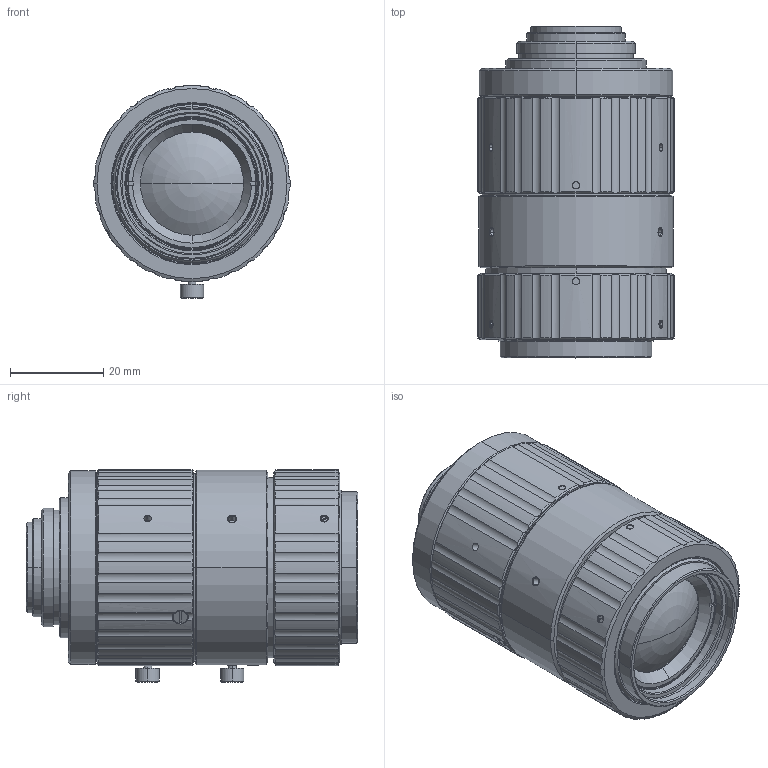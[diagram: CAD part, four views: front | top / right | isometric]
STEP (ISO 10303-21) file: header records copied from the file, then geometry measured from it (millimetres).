
FILE_DESCRIPTION (( 'STEP AP214' ), '1' );
FILE_NAME ('3D-drawing of V5024-MPZ_20190820.STEP', '2019-08-20T10:10:26', ( '' ), ( '' ), 'SwSTEP 2.0', 'SolidWorks 2013', '' );
FILE_SCHEMA (( 'AUTOMOTIVE_DESIGN' ));
Length unit declared in the file: millimetre
Products named in the file (3): V5024-MPZ_Mechnical limit_20190820; V5024-MPZ_Infinity_20190820; 3D-drawing of V5024-MPZ_20190820
Assembly tree (2 placements, depth 2):
  3D-drawing of V5024-MPZ_20190820
    V5024-MPZ_Infinity_20190820
    V5024-MPZ_Mechnical limit_20190820
Bounding box: 42 x 71.04 x 45.6 mm (x, y, z)
Surface area: 28689.5 mm2
Topology: 2 solids, 9 shells, 904 faces, 2288 edges, 1485 vertices
Faces by surface type: cylinder 449, plane 289, cone 150, torus 12, sphere 4
Entity records: 32857 total; most frequent: CARTESIAN_POINT 8112, ORIENTED_EDGE 4568, DIRECTION 4529, EDGE_CURVE 2284, AXIS2_PLACEMENT_3D 1718, VERTEX_POINT 1485, LINE 1093, VECTOR 1093
